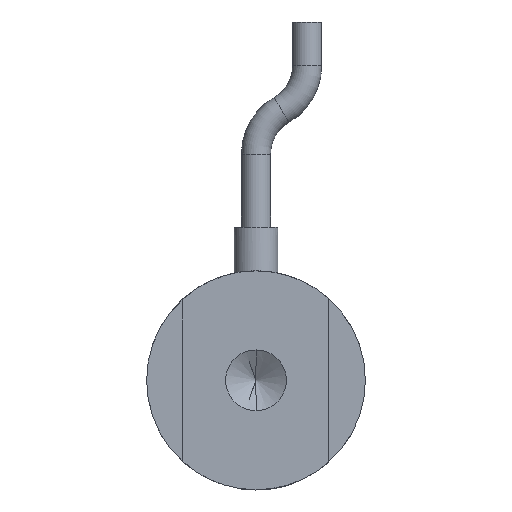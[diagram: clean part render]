
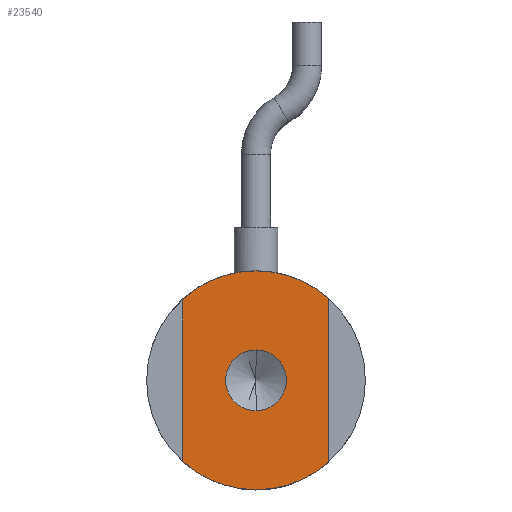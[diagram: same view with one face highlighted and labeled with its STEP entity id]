
A CAD part, front view. The second image highlights one B-rep face of the part: STEP entity #23540.
In plain terms, the highlighted planar face has unit normal (0, -1, 0).
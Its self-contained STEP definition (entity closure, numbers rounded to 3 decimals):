
#94 = VECTOR ( 'NONE', #2308, 1000. ) ;
#930 = CARTESIAN_POINT ( 'NONE',  ( 0.007, 4.967, 0.093 ) ) ;
#1008 = ORIENTED_EDGE ( 'NONE', *, *, #29517, .F. ) ;
#1602 = AXIS2_PLACEMENT_3D ( 'NONE', #5952, #28181, #9145 ) ;
#1842 = EDGE_LOOP ( 'NONE', ( #25300, #3922, #29859, #39402, #1008, #7390 ) ) ;
#2024 = CARTESIAN_POINT ( 'NONE',  ( 0.007, 4.967, 1.343 ) ) ;
#2308 = DIRECTION ( 'NONE',  ( 0., 0., -1. ) ) ;
#2775 = FACE_BOUND ( 'NONE', #11658, .T. ) ;
#3219 = DIRECTION ( 'NONE',  ( 0., 1., 0. ) ) ;
#3390 = VECTOR ( 'NONE', #29297, 1000. ) ;
#3439 = VERTEX_POINT ( 'NONE', #18987 ) ;
#3791 = FACE_OUTER_BOUND ( 'NONE', #1842, .T. ) ;
#3922 = ORIENTED_EDGE ( 'NONE', *, *, #9693, .F. ) ;
#4014 = AXIS2_PLACEMENT_3D ( 'NONE', #22290, #3219, #25477 ) ;
#4138 = DIRECTION ( 'NONE',  ( 0., 0., 1. ) ) ;
#4259 = AXIS2_PLACEMENT_3D ( 'NONE', #37644, #18580, #40828 ) ;
#5952 = CARTESIAN_POINT ( 'NONE',  ( 0.007, 4.967, 0.093 ) ) ;
#6575 = VERTEX_POINT ( 'NONE', #11337 ) ;
#6834 = DIRECTION ( 'NONE',  ( 0., 1., 0. ) ) ;
#7390 = ORIENTED_EDGE ( 'NONE', *, *, #36873, .F. ) ;
#7573 = LINE ( 'NONE', #21367, #94 ) ;
#7972 = EDGE_CURVE ( 'NONE', #21780, #37379, #40463, .T. ) ;
#8392 = CIRCLE ( 'NONE', #11056, 4.5 ) ;
#9122 = CARTESIAN_POINT ( 'NONE',  ( 0.007, 4.967, 0.093 ) ) ;
#9145 = DIRECTION ( 'NONE',  ( 0., 0., -1. ) ) ;
#9221 = CARTESIAN_POINT ( 'NONE',  ( 0.007, 4.967, 0.093 ) ) ;
#9693 = EDGE_CURVE ( 'NONE', #3439, #10766, #30498, .T. ) ;
#9765 = ORIENTED_EDGE ( 'NONE', *, *, #7972, .F. ) ;
#10766 = VERTEX_POINT ( 'NONE', #25317 ) ;
#10891 = LINE ( 'NONE', #35736, #3390 ) ;
#11056 = AXIS2_PLACEMENT_3D ( 'NONE', #930, #23170, #4138 ) ;
#11337 = CARTESIAN_POINT ( 'NONE',  ( -3., 4.967, 3.441 ) ) ;
#11658 = EDGE_LOOP ( 'NONE', ( #9765, #27205 ) ) ;
#12337 = DIRECTION ( 'NONE',  ( 0., 1., 0. ) ) ;
#12440 = DIRECTION ( 'NONE',  ( 0., 0., -1. ) ) ;
#16593 = VERTEX_POINT ( 'NONE', #32103 ) ;
#17100 = CIRCLE ( 'NONE', #31060, 1.25 ) ;
#18580 = DIRECTION ( 'NONE',  ( 0., 1., 0. ) ) ;
#18987 = CARTESIAN_POINT ( 'NONE',  ( 0.007, 4.967, 4.593 ) ) ;
#19957 = CARTESIAN_POINT ( 'NONE',  ( 3., 4.967, -3.267 ) ) ;
#20236 = EDGE_CURVE ( 'NONE', #30731, #10766, #10891, .T. ) ;
#20388 = CARTESIAN_POINT ( 'NONE',  ( 0.007, 4.967, -1.157 ) ) ;
#21367 = CARTESIAN_POINT ( 'NONE',  ( -3., 4.967, -16.289 ) ) ;
#21780 = VERTEX_POINT ( 'NONE', #20388 ) ;
#22290 = CARTESIAN_POINT ( 'NONE',  ( 0.007, 4.967, 0.093 ) ) ;
#23170 = DIRECTION ( 'NONE',  ( 0., 1., 0. ) ) ;
#23540 = ADVANCED_FACE ( 'NONE', ( #2775, #3791 ), #27897, .F. ) ;
#24113 = CARTESIAN_POINT ( 'NONE',  ( 0.007, 4.967, -4.407 ) ) ;
#25300 = ORIENTED_EDGE ( 'NONE', *, *, #20236, .T. ) ;
#25317 = CARTESIAN_POINT ( 'NONE',  ( 3., 4.967, 3.453 ) ) ;
#25477 = DIRECTION ( 'NONE',  ( 0., 0., 1. ) ) ;
#25869 = CARTESIAN_POINT ( 'NONE',  ( 0.007, 4.967, 0.093 ) ) ;
#27205 = ORIENTED_EDGE ( 'NONE', *, *, #28585, .F. ) ;
#27897 = PLANE ( 'NONE',  #40301 ) ;
#27941 = CIRCLE ( 'NONE', #4014, 4.5 ) ;
#28181 = DIRECTION ( 'NONE',  ( 0., -1., 0. ) ) ;
#28585 = EDGE_CURVE ( 'NONE', #37379, #21780, #17100, .T. ) ;
#29073 = DIRECTION ( 'NONE',  ( 0., 0., 1. ) ) ;
#29297 = DIRECTION ( 'NONE',  ( 0., 0., 1. ) ) ;
#29517 = EDGE_CURVE ( 'NONE', #39270, #16593, #34016, .T. ) ;
#29859 = ORIENTED_EDGE ( 'NONE', *, *, #31044, .F. ) ;
#30445 = EDGE_CURVE ( 'NONE', #6575, #16593, #7573, .T. ) ;
#30498 = CIRCLE ( 'NONE', #40504, 4.5 ) ;
#30731 = VERTEX_POINT ( 'NONE', #19957 ) ;
#31044 = EDGE_CURVE ( 'NONE', #6575, #3439, #27941, .T. ) ;
#31060 = AXIS2_PLACEMENT_3D ( 'NONE', #9221, #31491, #12440 ) ;
#31491 = DIRECTION ( 'NONE',  ( 0., -1., 0. ) ) ;
#32103 = CARTESIAN_POINT ( 'NONE',  ( -3., 4.967, -3.255 ) ) ;
#34016 = CIRCLE ( 'NONE', #4259, 4.5 ) ;
#34600 = DIRECTION ( 'NONE',  ( 0., 0., 1. ) ) ;
#35736 = CARTESIAN_POINT ( 'NONE',  ( 3., 4.967, -16.289 ) ) ;
#36873 = EDGE_CURVE ( 'NONE', #30731, #39270, #8392, .T. ) ;
#37379 = VERTEX_POINT ( 'NONE', #2024 ) ;
#37644 = CARTESIAN_POINT ( 'NONE',  ( 0.007, 4.967, 0.093 ) ) ;
#39270 = VERTEX_POINT ( 'NONE', #24113 ) ;
#39402 = ORIENTED_EDGE ( 'NONE', *, *, #30445, .T. ) ;
#40301 = AXIS2_PLACEMENT_3D ( 'NONE', #9122, #12337, #34600 ) ;
#40463 = CIRCLE ( 'NONE', #1602, 1.25 ) ;
#40504 = AXIS2_PLACEMENT_3D ( 'NONE', #25869, #6834, #29073 ) ;
#40828 = DIRECTION ( 'NONE',  ( 0., 0., 1. ) ) ;
